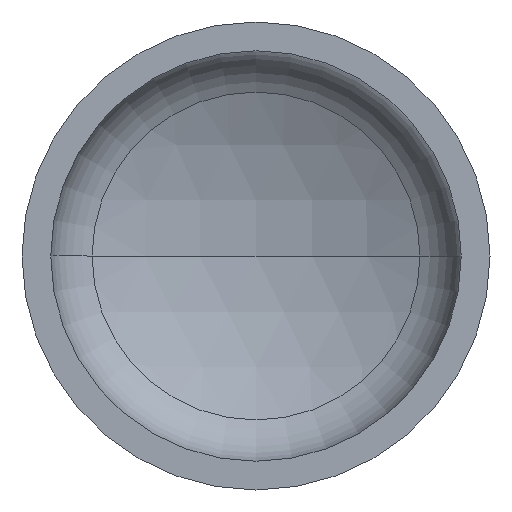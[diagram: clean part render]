
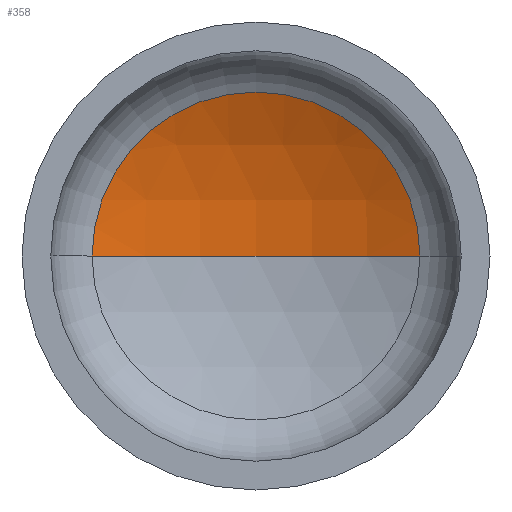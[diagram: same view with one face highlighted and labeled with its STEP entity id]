
A CAD part, front view. The second image highlights one B-rep face of the part: STEP entity #358.
In plain terms, the highlighted spherical face has radius 560 mm.
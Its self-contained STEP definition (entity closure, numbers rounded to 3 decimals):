
#4 = EDGE_LOOP ( 'NONE', ( #55, #11, #116 ) ) ;
#11 = ORIENTED_EDGE ( 'NONE', *, *, #248, .T. ) ;
#33 = AXIS2_PLACEMENT_3D ( 'NONE', #173, #71, #158 ) ;
#40 = VERTEX_POINT ( 'NONE', #277 ) ;
#55 = ORIENTED_EDGE ( 'NONE', *, *, #251, .F. ) ;
#71 = DIRECTION ( 'NONE',  ( 0., 0., -1. ) ) ;
#93 = VERTEX_POINT ( 'NONE', #243 ) ;
#116 = ORIENTED_EDGE ( 'NONE', *, *, #246, .T. ) ;
#132 = DIRECTION ( 'NONE',  ( 0., -1., 0. ) ) ;
#145 = AXIS2_PLACEMENT_3D ( 'NONE', #230, #284, #283 ) ;
#151 = AXIS2_PLACEMENT_3D ( 'NONE', #192, #211, #213 ) ;
#153 = AXIS2_PLACEMENT_3D ( 'NONE', #292, #132, #315 ) ;
#156 = CARTESIAN_POINT ( 'NONE',  ( -245.156, 228.899, 0. ) ) ;
#158 = DIRECTION ( 'NONE',  ( -1., 0., 0. ) ) ;
#173 = CARTESIAN_POINT ( 'NONE',  ( 0., -274.587, 0. ) ) ;
#192 = CARTESIAN_POINT ( 'NONE',  ( 0., -274.587, 0. ) ) ;
#211 = DIRECTION ( 'NONE',  ( 0., 0., -1. ) ) ;
#213 = DIRECTION ( 'NONE',  ( -1., 0., 0. ) ) ;
#226 = CIRCLE ( 'NONE', #145, 560. ) ;
#230 = CARTESIAN_POINT ( 'NONE',  ( 0., -274.587, 0. ) ) ;
#233 = CIRCLE ( 'NONE', #153, 245.156 ) ;
#243 = CARTESIAN_POINT ( 'NONE',  ( 245.156, 228.899, 0. ) ) ;
#246 = EDGE_CURVE ( 'NONE', #93, #322, #233, .T. ) ;
#248 = EDGE_CURVE ( 'NONE', #40, #93, #359, .T. ) ;
#251 = EDGE_CURVE ( 'NONE', #40, #322, #226, .T. ) ;
#264 = FACE_OUTER_BOUND ( 'NONE', #4, .T. ) ;
#277 = CARTESIAN_POINT ( 'NONE',  ( 0., 285.413, 0. ) ) ;
#283 = DIRECTION ( 'NONE',  ( 1., 0., 0. ) ) ;
#284 = DIRECTION ( 'NONE',  ( 0., 0., 1. ) ) ;
#292 = CARTESIAN_POINT ( 'NONE',  ( 0., 228.899, 0. ) ) ;
#315 = DIRECTION ( 'NONE',  ( 1., 0., 0. ) ) ;
#322 = VERTEX_POINT ( 'NONE', #156 ) ;
#358 = ADVANCED_FACE ( 'NONE', ( #264 ), #398, .F. ) ;
#359 = CIRCLE ( 'NONE', #151, 560. ) ;
#398 = SPHERICAL_SURFACE ( 'NONE', #33, 560. ) ;
